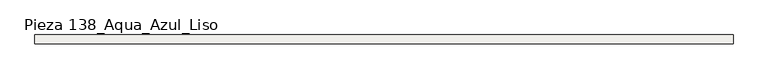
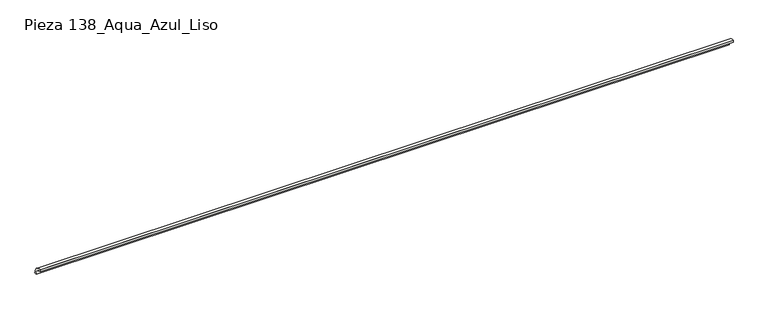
"""IFC4 building model written with IfcOpenShell, lengths in millimetres: slab geometry, ROSA GRES_138 : Pieza 138_Aqua_Azul_Liso."""

from ifc_helpers import new_model, si_unit, point, frame, frame_2d, origin, origin_2d, place, context, project, spatial, polyline, circle_curve, trimmed, segment, composite_curve, outline, extrude, source, transform, mapped, element, save


def pieza_138_aqua_azul_liso_94b4a06c(model_context):
    return source(origin(), model_context, "Body", "SweptSolid", [
        extrude(outline(composite_curve([segment(trimmed(circle_curve(origin_2d(), 40.0), [point((0.0, 40.0))], [point((40.0, 0.0))], False, "CARTESIAN"), True, "CONTINUOUS"), segment(polyline([(40.0, 0.0), (30.0265886, 0.0)]), True, "CONTINUOUS"), segment(trimmed(circle_curve(frame_2d((0.0044453, 0.0044453)), 30.0221435), [point((30.0265886, 0.0))], [point((0.0, 30.0265886))], True, "CARTESIAN"), True, "CONTINUOUS"), segment(polyline([(0.0, 30.0265886), (0.0, 40.0)]), True, "CONTINUOUS")], self_intersect=False)), frame((0.0, 0.0, 0.0), z_axis=(1.0, 0.0, 0.0), x_axis=(0.0, 1.0, 0.0)), (0.0, 0.0, 1.0), 3111.2489932),
    ])


if __name__ == "__main__":
    model = new_model("IFC4")
    model_context = context("Model", 3, world=origin())
    ifc_project = project(units=[si_unit("LENGTHUNIT", "METRE", prefix="MILLI")], contexts=[model_context])
    site = spatial("IfcSite", under=ifc_project)
    building = spatial("IfcBuilding", under=site)
    placement = place(None, origin())
    pieza_138_aqua_azul_liso_shape = pieza_138_aqua_azul_liso_94b4a06c(model_context)
    element("IfcSlab", 1, ObjectType="ROSA GRES_138 : Pieza 138_Aqua_Azul_Liso", at=placement, inside=building, context=model_context, shape_type="MappedRepresentation", body=[
        mapped(pieza_138_aqua_azul_liso_shape, transform((0.0, 0.0, 0.0), x_axis=(1.0, 0.0, 0.0), y_axis=(0.0, 1.0, 0.0), z_axis=(0.0, 0.0, 1.0))),
    ])
    save(model, "model.ifc")
